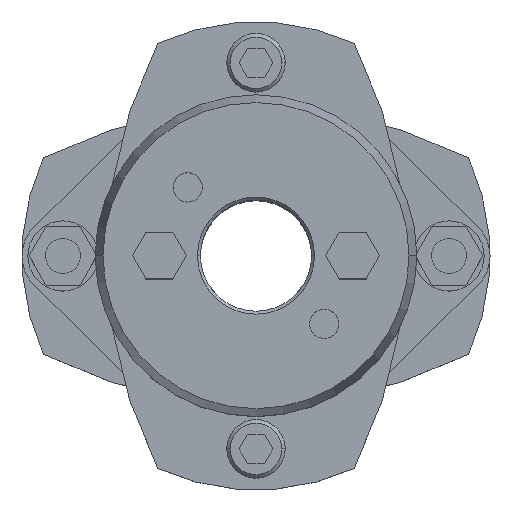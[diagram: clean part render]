
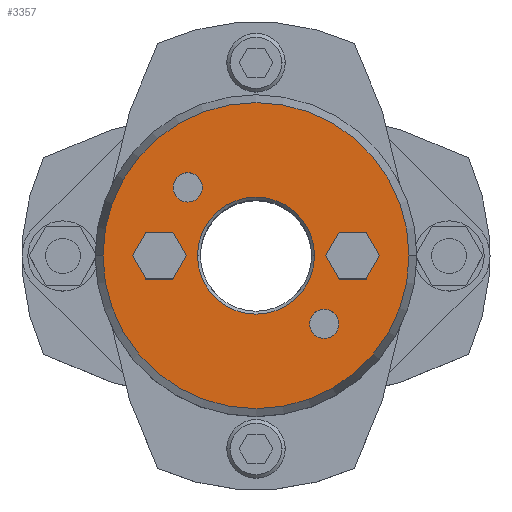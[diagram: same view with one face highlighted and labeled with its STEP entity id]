
A CAD part, top view. The second image highlights one B-rep face of the part: STEP entity #3357.
In plain terms, the highlighted planar face has unit normal (0, 0, 1).
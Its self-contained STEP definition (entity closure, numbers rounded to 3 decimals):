
#1471=CARTESIAN_POINT('',(-10.,0.,35.875));
#1472=VERTEX_POINT('',#1471);
#1488=CARTESIAN_POINT('',(10.,0.,35.875));
#1489=VERTEX_POINT('',#1488);
#1496=CARTESIAN_POINT('',(0.,0.,35.875));
#1497=DIRECTION('',(0.0,0.0,1.0));
#1498=DIRECTION('',(-1.0,0.0,0.0));
#1499=AXIS2_PLACEMENT_3D('',#1496,#1497,#1498);
#1500=CIRCLE('',#1499,10.0);
#1501=EDGE_CURVE('',#1489,#1472,#1500,.T.);
#1659=CARTESIAN_POINT('',(26.16,0.,35.875));
#1660=VERTEX_POINT('',#1659);
#1667=CARTESIAN_POINT('',(-26.16,0.,35.875));
#1668=VERTEX_POINT('',#1667);
#1669=CARTESIAN_POINT('',(0.,0.,35.875));
#1670=DIRECTION('',(0.0,0.0,-1.0));
#1671=DIRECTION('',(1.0,0.0,0.0));
#1672=AXIS2_PLACEMENT_3D('',#1669,#1670,#1671);
#1673=CIRCLE('',#1672,26.16);
#1674=EDGE_CURVE('',#1660,#1668,#1673,.T.);
#1769=CARTESIAN_POINT('',(-14.167,11.667,35.875));
#1770=VERTEX_POINT('',#1769);
#1786=CARTESIAN_POINT('',(-9.167,11.667,35.875));
#1787=VERTEX_POINT('',#1786);
#1794=CARTESIAN_POINT('',(-11.667,11.667,35.875));
#1795=DIRECTION('',(0.0,0.0,-1.0));
#1796=DIRECTION('',(-1.0,0.0,0.0));
#1797=AXIS2_PLACEMENT_3D('',#1794,#1795,#1796);
#1798=CIRCLE('',#1797,2.5);
#1799=EDGE_CURVE('',#1770,#1787,#1798,.T.);
#1811=CARTESIAN_POINT('',(9.167,-11.667,35.875));
#1812=VERTEX_POINT('',#1811);
#1828=CARTESIAN_POINT('',(14.167,-11.667,35.875));
#1829=VERTEX_POINT('',#1828);
#1836=CARTESIAN_POINT('',(11.667,-11.667,35.875));
#1837=DIRECTION('',(0.0,0.0,-1.0));
#1838=DIRECTION('',(-1.0,0.0,0.0));
#1839=AXIS2_PLACEMENT_3D('',#1836,#1837,#1838);
#1840=CIRCLE('',#1839,2.5);
#1841=EDGE_CURVE('',#1812,#1829,#1840,.T.);
#2592=CARTESIAN_POINT('',(11.667,-11.667,35.875));
#2593=DIRECTION('',(0.0,0.0,-1.0));
#2594=DIRECTION('',(-1.0,0.0,0.0));
#2595=AXIS2_PLACEMENT_3D('',#2592,#2593,#2594);
#2596=CIRCLE('',#2595,2.5);
#2597=EDGE_CURVE('',#1829,#1812,#2596,.T.);
#2626=CARTESIAN_POINT('',(-11.667,11.667,35.875));
#2627=DIRECTION('',(0.0,0.0,-1.0));
#2628=DIRECTION('',(-1.0,0.0,0.0));
#2629=AXIS2_PLACEMENT_3D('',#2626,#2627,#2628);
#2630=CIRCLE('',#2629,2.5);
#2631=EDGE_CURVE('',#1787,#1770,#2630,.T.);
#2669=CARTESIAN_POINT('',(11.881,0.,35.875));
#2670=VERTEX_POINT('',#2669);
#2677=CARTESIAN_POINT('',(14.191,-4.,35.875));
#2678=VERTEX_POINT('',#2677);
#2679=CARTESIAN_POINT('',(14.191,-4.,35.875));
#2680=DIRECTION('',(-0.5,0.866,0.0));
#2681=VECTOR('',#2680,4.619);
#2682=LINE('',#2679,#2681);
#2683=EDGE_CURVE('',#2678,#2670,#2682,.T.);
#2707=CARTESIAN_POINT('',(14.191,4.,35.875));
#2708=VERTEX_POINT('',#2707);
#2715=CARTESIAN_POINT('',(11.881,0.,35.875));
#2716=DIRECTION('',(0.5,0.866,0.0));
#2717=VECTOR('',#2716,4.619);
#2718=LINE('',#2715,#2717);
#2719=EDGE_CURVE('',#2670,#2708,#2718,.T.);
#2738=CARTESIAN_POINT('',(18.809,4.,35.875));
#2739=VERTEX_POINT('',#2738);
#2746=CARTESIAN_POINT('',(14.191,4.,35.875));
#2747=DIRECTION('',(1.0,0.0,0.0));
#2748=VECTOR('',#2747,4.619);
#2749=LINE('',#2746,#2748);
#2750=EDGE_CURVE('',#2708,#2739,#2749,.T.);
#2769=CARTESIAN_POINT('',(21.119,0.,35.875));
#2770=VERTEX_POINT('',#2769);
#2777=CARTESIAN_POINT('',(18.809,4.,35.875));
#2778=DIRECTION('',(0.5,-0.866,0.0));
#2779=VECTOR('',#2778,4.619);
#2780=LINE('',#2777,#2779);
#2781=EDGE_CURVE('',#2739,#2770,#2780,.T.);
#2800=CARTESIAN_POINT('',(18.809,-4.,35.875));
#2801=VERTEX_POINT('',#2800);
#2808=CARTESIAN_POINT('',(21.119,0.,35.875));
#2809=DIRECTION('',(-0.5,-0.866,0.0));
#2810=VECTOR('',#2809,4.619);
#2811=LINE('',#2808,#2810);
#2812=EDGE_CURVE('',#2770,#2801,#2811,.T.);
#2830=CARTESIAN_POINT('',(18.809,-4.,35.875));
#2831=DIRECTION('',(-1.0,0.0,0.0));
#2832=VECTOR('',#2831,4.619);
#2833=LINE('',#2830,#2832);
#2834=EDGE_CURVE('',#2801,#2678,#2833,.T.);
#2869=CARTESIAN_POINT('',(-21.119,0.,35.875));
#2870=VERTEX_POINT('',#2869);
#2877=CARTESIAN_POINT('',(-18.809,-4.,35.875));
#2878=VERTEX_POINT('',#2877);
#2879=CARTESIAN_POINT('',(-18.809,-4.,35.875));
#2880=DIRECTION('',(-0.5,0.866,0.0));
#2881=VECTOR('',#2880,4.619);
#2882=LINE('',#2879,#2881);
#2883=EDGE_CURVE('',#2878,#2870,#2882,.T.);
#2907=CARTESIAN_POINT('',(-18.809,4.,35.875));
#2908=VERTEX_POINT('',#2907);
#2915=CARTESIAN_POINT('',(-21.119,0.,35.875));
#2916=DIRECTION('',(0.5,0.866,0.0));
#2917=VECTOR('',#2916,4.619);
#2918=LINE('',#2915,#2917);
#2919=EDGE_CURVE('',#2870,#2908,#2918,.T.);
#2938=CARTESIAN_POINT('',(-14.191,4.,35.875));
#2939=VERTEX_POINT('',#2938);
#2946=CARTESIAN_POINT('',(-18.809,4.,35.875));
#2947=DIRECTION('',(1.0,0.0,0.0));
#2948=VECTOR('',#2947,4.619);
#2949=LINE('',#2946,#2948);
#2950=EDGE_CURVE('',#2908,#2939,#2949,.T.);
#2969=CARTESIAN_POINT('',(-11.881,0.,35.875));
#2970=VERTEX_POINT('',#2969);
#2977=CARTESIAN_POINT('',(-14.191,4.,35.875));
#2978=DIRECTION('',(0.5,-0.866,0.0));
#2979=VECTOR('',#2978,4.619);
#2980=LINE('',#2977,#2979);
#2981=EDGE_CURVE('',#2939,#2970,#2980,.T.);
#3000=CARTESIAN_POINT('',(-14.191,-4.,35.875));
#3001=VERTEX_POINT('',#3000);
#3008=CARTESIAN_POINT('',(-11.881,0.,35.875));
#3009=DIRECTION('',(-0.5,-0.866,0.0));
#3010=VECTOR('',#3009,4.619);
#3011=LINE('',#3008,#3010);
#3012=EDGE_CURVE('',#2970,#3001,#3011,.T.);
#3030=CARTESIAN_POINT('',(-14.191,-4.,35.875));
#3031=DIRECTION('',(-1.0,0.0,0.0));
#3032=VECTOR('',#3031,4.619);
#3033=LINE('',#3030,#3032);
#3034=EDGE_CURVE('',#3001,#2878,#3033,.T.);
#3304=CARTESIAN_POINT('',(0.,0.,35.875));
#3305=DIRECTION('',(0.0,0.0,-1.0));
#3306=DIRECTION('',(1.0,0.0,0.0));
#3307=AXIS2_PLACEMENT_3D('',#3304,#3305,#3306);
#3308=CIRCLE('',#3307,26.16);
#3309=EDGE_CURVE('',#1668,#1660,#3308,.T.);
#3314=CARTESIAN_POINT('',(-2.364,0.,35.875));
#3315=DIRECTION('',(0.0,0.0,1.0));
#3316=DIRECTION('',(-1.0,0.0,0.0));
#3317=AXIS2_PLACEMENT_3D('',#3314,#3315,#3316);
#3318=PLANE('',#3317);
#3319=ORIENTED_EDGE('',*,*,#3309,.F.);
#3320=ORIENTED_EDGE('',*,*,#1674,.F.);
#3321=EDGE_LOOP('',(#3319,#3320));
#3322=FACE_OUTER_BOUND('',#3321,.T.);
#3323=ORIENTED_EDGE('',*,*,#1841,.T.);
#3324=ORIENTED_EDGE('',*,*,#2597,.T.);
#3325=EDGE_LOOP('',(#3323,#3324));
#3326=FACE_BOUND('',#3325,.T.);
#3327=ORIENTED_EDGE('',*,*,#1799,.T.);
#3328=ORIENTED_EDGE('',*,*,#2631,.T.);
#3329=EDGE_LOOP('',(#3327,#3328));
#3330=FACE_BOUND('',#3329,.T.);
#3331=ORIENTED_EDGE('',*,*,#2683,.T.);
#3332=ORIENTED_EDGE('',*,*,#2719,.T.);
#3333=ORIENTED_EDGE('',*,*,#2750,.T.);
#3334=ORIENTED_EDGE('',*,*,#2781,.T.);
#3335=ORIENTED_EDGE('',*,*,#2812,.T.);
#3336=ORIENTED_EDGE('',*,*,#2834,.T.);
#3337=EDGE_LOOP('',(#3331,#3332,#3333,#3334,#3335,#3336));
#3338=FACE_BOUND('',#3337,.T.);
#3339=ORIENTED_EDGE('',*,*,#2883,.T.);
#3340=ORIENTED_EDGE('',*,*,#2919,.T.);
#3341=ORIENTED_EDGE('',*,*,#2950,.T.);
#3342=ORIENTED_EDGE('',*,*,#2981,.T.);
#3343=ORIENTED_EDGE('',*,*,#3012,.T.);
#3344=ORIENTED_EDGE('',*,*,#3034,.T.);
#3345=EDGE_LOOP('',(#3339,#3340,#3341,#3342,#3343,#3344));
#3346=FACE_BOUND('',#3345,.T.);
#3347=ORIENTED_EDGE('',*,*,#1501,.F.);
#3348=CARTESIAN_POINT('',(0.,0.,35.875));
#3349=DIRECTION('',(0.0,0.0,1.0));
#3350=DIRECTION('',(-1.0,0.0,0.0));
#3351=AXIS2_PLACEMENT_3D('',#3348,#3349,#3350);
#3352=CIRCLE('',#3351,10.0);
#3353=EDGE_CURVE('',#1472,#1489,#3352,.T.);
#3354=ORIENTED_EDGE('',*,*,#3353,.F.);
#3355=EDGE_LOOP('',(#3347,#3354));
#3356=FACE_BOUND('',#3355,.T.);
#3357=ADVANCED_FACE('',(#3322,#3326,#3330,#3338,#3346,#3356),#3318,.T.);
